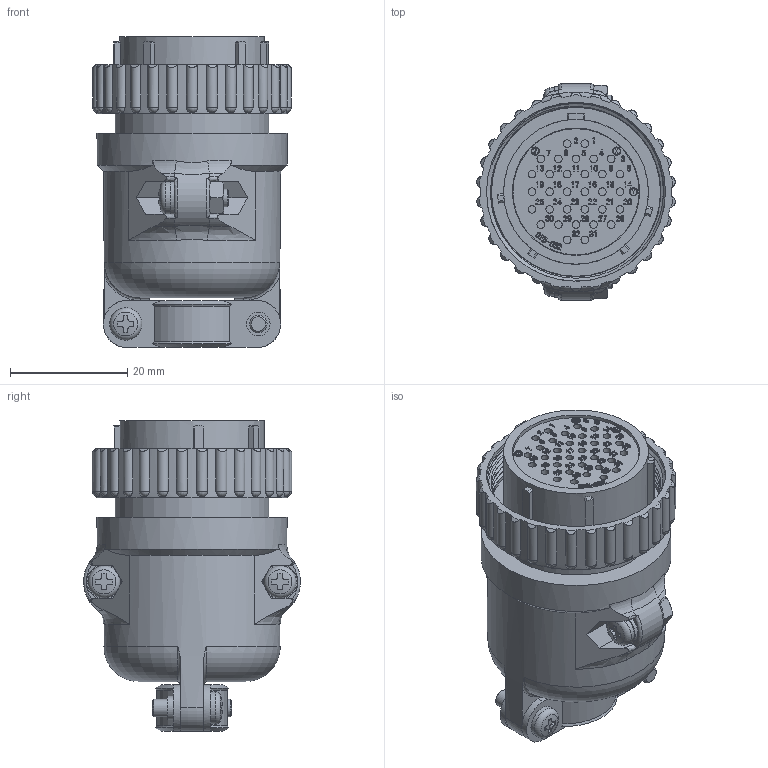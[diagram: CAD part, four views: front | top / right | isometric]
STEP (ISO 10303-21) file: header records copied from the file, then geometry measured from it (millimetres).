
FILE_DESCRIPTION (( 'STEP AP203' ), '1' );
FILE_NAME ('JMSP2532F-D.STEP', '2021-06-28T06:44:56', ( '' ), ( '' ), 'SwSTEP 2.0', 'SolidWorks 2018', '' );
FILE_SCHEMA (( 'CONFIG_CONTROL_DESIGN' ));
Products named in the file (1): JMSP2532F-D
Bounding box: 33.82 x 36.96 x 53 mm (x, y, z)
Volume: 20031 mm3; surface area: 15827.3 mm2
Topology: 1 solids, 5 shells, 3079 faces, 8518 edges, 5654 vertices
Faces by surface type: bspline 1455, plane 1195, cylinder 273, cone 83, torus 39, sphere 34
Full cylindrical faces by diameter (mm): 1.1 x32, 1.2 x3, 1.3 x32, 1.4 x4, 1.55 x32, 1.6 x1, 2.4 x4, 3 x8, 3.3 x2, 3.5 x2, 4 x2, 5.5 x2, 15 x1, 21.3 x1, 21.5 x1, 21.7 x1, 23.8 x1, 24.7 x1, 26.2 x2, 28.8 x1, 30.1 x1, 30.2 x1, 30.5 x1, 32.4 x1, 32.5 x1
Entity records: 141584 total; most frequent: CARTESIAN_POINT 74535, ORIENTED_EDGE 16406, DIRECTION 8945, EDGE_CURVE 8203, VERTEX_POINT 5526, LINE 4279, VECTOR 4279, EDGE_LOOP 3483
